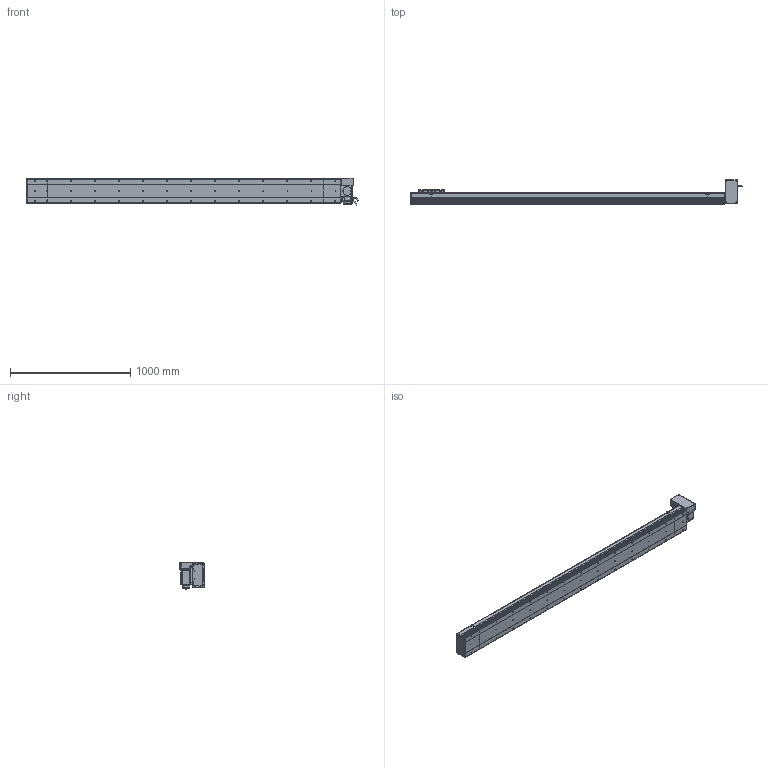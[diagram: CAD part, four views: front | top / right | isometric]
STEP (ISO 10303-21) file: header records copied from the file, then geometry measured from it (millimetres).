
FILE_DESCRIPTION (( 'STEP AP214' ), '1' );
FILE_NAME ('D20 CBH LT S2300.STEP', '2010-06-30T10:08:58', ( 'Conseil Régional Haute-Normandie' ), ( 'Conseil Régional Haute-Normandie' ), 'SwSTEP 2.0', 'SolidWorks 2010', '' );
FILE_SCHEMA (( 'AUTOMOTIVE_DESIGN' ));
Length unit declared in the file: millimetre
Products named in the file (31): Corp S2300_Default; Corp D20 S2300_Default; Chariot D20_Default; vis M5 L47_Default; Corp Tail D20+100_Default; Tail D20+100_Default; Couvercle S2300_Default; Glissiere_Default; Support Chariot D20_Default; vis M5 L15_Default; Plaque De Serrage D20_Default; Plaque de Bout Tail D20_Default; Couvercle_Default; vis M5 L30_Default; ecrou_Default; Conecteur_Default; Cache Support Moteur LT_Default; Conecteur2_Default; codeur 90BLDC125-640; corps 90BLDC125A-640; Plaque De Serrage D20 LT_Default; Plaque de Bout Head D20 LT_Default; Couvercle LT_Default; Corp Tail D20 LT_Default; Support moteur LT_Default; Rondelle Cache D20 LT_Default; Head LT_Default; D20 CBH LT S2300; avant 90BLDC125A-640; Moteur motionking 90BLDC125A-640
Assembly tree (66 placements, depth 4):
  D20 CBH LT S2300
    Tail D20+100_Default
      Plaque de Bout Tail D20_Default
      vis M5 L15_Default  x6
      Couvercle_Default
      Corp Tail D20+100_Default
      Plaque De Serrage D20_Default
    Head LT_Default
      vis M5 L15_Default  x12
      vis M5 L30_Default  x4
      vis M5 L47_Default  x4
      Rondelle Cache D20 LT_Default  x3
      Plaque de Bout Head D20 LT_Default
      Moteur motionking 90BLDC125A-640
        Conecteur2_Default
        Conecteur_Default
        corps 90BLDC125A-640
        avant 90BLDC125A-640
        codeur 90BLDC125-640
      ecrou_Default  x4
      Couvercle LT_Default
      Cache Support Moteur LT_Default
      Corp Tail D20 LT_Default
      Support moteur LT_Default
      Plaque De Serrage D20 LT_Default
    Chariot D20_Default
      vis M5 L15_Default  x8
      Support Chariot D20_Default
      Glissiere_Default
      Chariot D20_Default
    Corp D20 S2300_Default
      Couvercle S2300_Default
      Corp S2300_Default
Bounding box: 2763.45 x 202.5 x 229.7 mm (x, y, z)
Volume: 18741960.2 mm3; surface area: 3655978.7 mm2
Topology: 103 solids, 103 shells, 3804 faces, 9530 edges, 6196 vertices
Faces by surface type: plane 2107, bspline 806, cylinder 728, torus 91, cone 68, sphere 4
Entity records: 161518 total; most frequent: CARTESIAN_POINT 83374, ORIENTED_EDGE 15528, DIRECTION 11784, EDGE_CURVE 7764, VERTEX_POINT 5140, LINE 4976, VECTOR 4976, AXIS2_PLACEMENT_3D 3404
